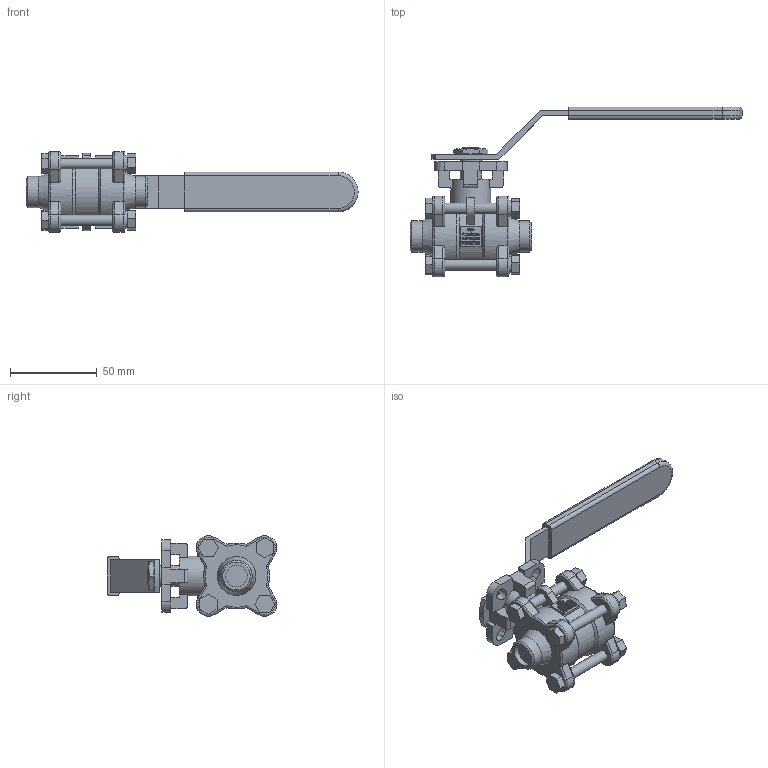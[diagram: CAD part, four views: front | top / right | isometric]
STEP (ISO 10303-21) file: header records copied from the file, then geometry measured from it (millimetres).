
FILE_DESCRIPTION((''),'2;1');
FILE_NAME('K:\Inventor\1 Artikel\11) Muffen-Kugelhähne\11a) manuell\Econosto\470-VABW, 7644ISO\470-VABW, DN10\470-VABW, DN10, 3D\470-VABW, DN10, PN68, HH, 3D.stp','2019-10-23T10:38:45',('claudia'),(''),'Autodesk Inventor 2013','Autodesk Inventor 2013','');
FILE_SCHEMA(('AUTOMOTIVE_DESIGN { 1 0 10303 214 1 1 1 1 }'));
Length unit declared in the file: millimetre
Products named in the file (1): Bauteil7
Bounding box: 191.24 x 97.86 x 46.53 mm (x, y, z)
Volume: 106430.9 mm3; surface area: 32103.1 mm2
Topology: 1 solids, 1 shells, 1467 faces, 3924 edges, 2594 vertices
Faces by surface type: plane 860, bspline 471, cylinder 92, torus 26, cone 18
Full cylindrical faces by diameter (mm): 6 x10, 9.5 x4, 12 x1, 12.5 x2, 18 x2, 23 x1, 26 x1, 38 x2
Entity records: 49366 total; most frequent: CARTESIAN_POINT 15973, ORIENTED_EDGE 7776, DIRECTION 5105, EDGE_CURVE 3888, VECTOR 2649, LINE 2649, VERTEX_POINT 2585, EDGE_LOOP 1657
